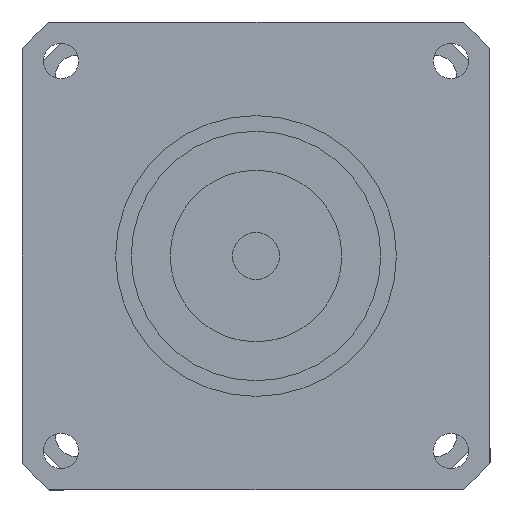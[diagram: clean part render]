
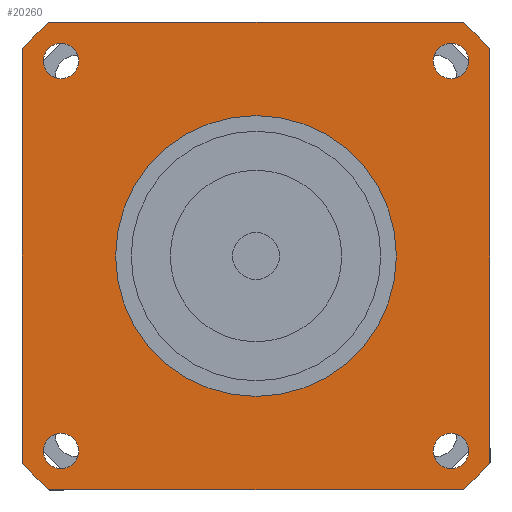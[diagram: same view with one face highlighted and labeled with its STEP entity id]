
A CAD part, left-side view. The second image highlights one B-rep face of the part: STEP entity #20260.
In plain terms, the highlighted planar face has unit normal (-1, 0, 0) as drawn and (0, 0, -1) by its records, which use the part's own axes.
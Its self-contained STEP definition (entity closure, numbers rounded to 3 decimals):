
#11110=CARTESIAN_POINT('',(-30.,-26.458,-58.));
#11120=VERTEX_POINT('',#11110);
#11280=CARTESIAN_POINT('',(-26.458,-30.,-58.));
#11290=VERTEX_POINT('',#11280);
#11320=CARTESIAN_POINT('',(0.,0.,
-58.));
#11330=DIRECTION('',(0.,0.,1.));
#11340=DIRECTION('',(0.,-1.,0.));
#11350=AXIS2_PLACEMENT_3D('',#11320,#11330,#11340);
#11360=CIRCLE('',#11350,40.);
#11370=EDGE_CURVE('',#11120,#11290,#11360,.T.);
#12870=CARTESIAN_POINT('',(-30.,26.458,-58.));
#12880=VERTEX_POINT('',#12870);
#12980=CARTESIAN_POINT('',(-30.,30.,-58.));
#12990=DIRECTION('',(0.,-1.,0.));
#13000=VECTOR('',#12990,1000.);
#13010=LINE('',#12980,#13000);
#13020=EDGE_CURVE('',#12880,#11120,#13010,.T.);
#17850=CARTESIAN_POINT('',(-26.458,30.,-58.));
#17860=VERTEX_POINT('',#17850);
#17910=CARTESIAN_POINT('',(0.,0.,
-58.));
#17920=DIRECTION('',(0.,0.,1.));
#17930=DIRECTION('',(0.,-1.,0.));
#17940=AXIS2_PLACEMENT_3D('',#17910,#17920,#17930);
#17950=CIRCLE('',#17940,40.);
#17960=EDGE_CURVE('',#17860,#12880,#17950,.T.);
#18100=CARTESIAN_POINT('',(26.458,30.,-58.));
#18110=VERTEX_POINT('',#18100);
#18160=CARTESIAN_POINT('',(30.,30.,-58.));
#18170=DIRECTION('',(-1.,0.,0.));
#18180=VECTOR('',#18170,1000.);
#18190=LINE('',#18160,#18180);
#18200=EDGE_CURVE('',#18110,#17860,#18190,.T.);
#18310=CARTESIAN_POINT('',(0.,0.,
-58.));
#18320=DIRECTION('',(0.,0.,1.));
#18330=DIRECTION('',(0.,-1.,0.));
#18340=AXIS2_PLACEMENT_3D('',#18310,#18320,#18330);
#18350=CIRCLE('',#18340,40.);
#18360=CARTESIAN_POINT('',(30.,26.458,-58.));
#18370=VERTEX_POINT('',#18360);
#18380=EDGE_CURVE('',#18370,#18110,#18350,.T.);
#18590=CARTESIAN_POINT('',(30.,-26.458,-58.));
#18600=VERTEX_POINT('',#18590);
#18650=CARTESIAN_POINT('',(30.,-30.,-58.));
#18660=DIRECTION('',(0.,1.,0.));
#18670=VECTOR('',#18660,1000.);
#18680=LINE('',#18650,#18670);
#18690=EDGE_CURVE('',#18600,#18370,#18680,.T.);
#18830=CARTESIAN_POINT('',(26.458,-30.,-58.));
#18840=VERTEX_POINT('',#18830);
#18890=CARTESIAN_POINT('',(0.,0.,
-58.));
#18900=DIRECTION('',(0.,0.,1.));
#18910=DIRECTION('',(0.,-1.,0.));
#18920=AXIS2_PLACEMENT_3D('',#18890,#18900,#18910);
#18930=CIRCLE('',#18920,40.);
#18940=EDGE_CURVE('',#18840,#18600,#18930,.T.);
#19070=CARTESIAN_POINT('',(-30.,-30.,-58.));
#19080=DIRECTION('',(1.,0.,0.));
#19090=VECTOR('',#19080,1000.);
#19100=LINE('',#19070,#19090);
#19110=EDGE_CURVE('',#11290,#18840,#19100,.T.);
#19160=CARTESIAN_POINT('',(-30.,30.,-58.));
#19170=DIRECTION('',(0.,0.,1.));
#19180=DIRECTION('',(-1.,0.,0.));
#19190=AXIS2_PLACEMENT_3D('',#19160,#19170,#19180);
#19200=PLANE('',#19190);
#19210=CARTESIAN_POINT('',(25.,-25.,-58.));
#19220=DIRECTION('',(0.,0.,-1.));
#19230=DIRECTION('',(1.,0.,0.));
#19240=AXIS2_PLACEMENT_3D('',#19210,#19220,#19230);
#19250=CIRCLE('',#19240,2.25);
#19260=CARTESIAN_POINT('',(27.25,-25.,-58.));
#19270=VERTEX_POINT('',#19260);
#19280=CARTESIAN_POINT('',(25.,-27.25,-58.));
#19290=VERTEX_POINT('',#19280);
#19300=EDGE_CURVE('',#19270,#19290,#19250,.T.);
#19310=ORIENTED_EDGE('',*,*,#19300,.F.);
#19320=CARTESIAN_POINT('',(25.,-22.75,-58.));
#19330=VERTEX_POINT('',#19320);
#19340=EDGE_CURVE('',#19290,#19330,#19250,.T.);
#19350=ORIENTED_EDGE('',*,*,#19340,.F.);
#19360=EDGE_CURVE('',#19330,#19270,#19250,.T.);
#19370=ORIENTED_EDGE('',*,*,#19360,.F.);
#19380=EDGE_LOOP('',(#19370,#19350,#19310));
#19390=FACE_BOUND('',#19380,.T.);
#19400=CARTESIAN_POINT('',(25.,25.,-58.));
#19410=DIRECTION('',(0.,0.,-1.));
#19420=DIRECTION('',(0.,1.,0.));
#19430=AXIS2_PLACEMENT_3D('',#19400,#19410,#19420);
#19440=CIRCLE('',#19430,2.25);
#19450=CARTESIAN_POINT('',(25.,27.25,-58.));
#19460=VERTEX_POINT('',#19450);
#19470=CARTESIAN_POINT('',(27.25,25.,-58.));
#19480=VERTEX_POINT('',#19470);
#19490=EDGE_CURVE('',#19460,#19480,#19440,.T.);
#19500=ORIENTED_EDGE('',*,*,#19490,.F.);
#19510=CARTESIAN_POINT('',(22.75,25.,-58.));
#19520=VERTEX_POINT('',#19510);
#19530=EDGE_CURVE('',#19480,#19520,#19440,.T.);
#19540=ORIENTED_EDGE('',*,*,#19530,.F.);
#19550=EDGE_CURVE('',#19520,#19460,#19440,.T.);
#19560=ORIENTED_EDGE('',*,*,#19550,.F.);
#19570=EDGE_LOOP('',(#19560,#19540,#19500));
#19580=FACE_BOUND('',#19570,.T.);
#19590=CARTESIAN_POINT('',(-25.,25.,-58.));
#19600=DIRECTION('',(0.,0.,-1.));
#19610=DIRECTION('',(-1.,0.,0.));
#19620=AXIS2_PLACEMENT_3D('',#19590,#19600,#19610);
#19630=CIRCLE('',#19620,2.25);
#19640=CARTESIAN_POINT('',(-27.25,25.,-58.));
#19650=VERTEX_POINT('',#19640);
#19660=CARTESIAN_POINT('',(-25.,27.25,-58.));
#19670=VERTEX_POINT('',#19660);
#19680=EDGE_CURVE('',#19650,#19670,#19630,.T.);
#19690=ORIENTED_EDGE('',*,*,#19680,.F.);
#19700=CARTESIAN_POINT('',(-25.,22.75,-58.));
#19710=VERTEX_POINT('',#19700);
#19720=EDGE_CURVE('',#19670,#19710,#19630,.T.);
#19730=ORIENTED_EDGE('',*,*,#19720,.F.);
#19740=EDGE_CURVE('',#19710,#19650,#19630,.T.);
#19750=ORIENTED_EDGE('',*,*,#19740,.F.);
#19760=EDGE_LOOP('',(#19750,#19730,#19690));
#19770=FACE_BOUND('',#19760,.T.);
#19780=CARTESIAN_POINT('',(-25.,-25.,-58.));
#19790=DIRECTION('',(0.,0.,-1.));
#19800=DIRECTION('',(0.,-1.,0.));
#19810=AXIS2_PLACEMENT_3D('',#19780,#19790,#19800);
#19820=CIRCLE('',#19810,2.25);
#19830=CARTESIAN_POINT('',(-25.,-27.25,-58.));
#19840=VERTEX_POINT('',#19830);
#19850=CARTESIAN_POINT('',(-27.25,-25.,-58.));
#19860=VERTEX_POINT('',#19850);
#19870=EDGE_CURVE('',#19840,#19860,#19820,.T.);
#19880=ORIENTED_EDGE('',*,*,#19870,.F.);
#19890=CARTESIAN_POINT('',(-22.75,-25.,-58.));
#19900=VERTEX_POINT('',#19890);
#19910=EDGE_CURVE('',#19860,#19900,#19820,.T.);
#19920=ORIENTED_EDGE('',*,*,#19910,.F.);
#19930=EDGE_CURVE('',#19900,#19840,#19820,.T.);
#19940=ORIENTED_EDGE('',*,*,#19930,.F.);
#19950=EDGE_LOOP('',(#19940,#19920,#19880));
#19960=FACE_BOUND('',#19950,.T.);
#19970=ORIENTED_EDGE('',*,*,#11370,.F.);
#19980=ORIENTED_EDGE('',*,*,#19110,.F.);
#19990=ORIENTED_EDGE('',*,*,#18940,.F.);
#20000=ORIENTED_EDGE('',*,*,#18690,.F.);
#20010=ORIENTED_EDGE('',*,*,#18380,.F.);
#20020=ORIENTED_EDGE('',*,*,#18200,.F.);
#20030=ORIENTED_EDGE('',*,*,#17960,.F.);
#20040=ORIENTED_EDGE('',*,*,#13020,.F.);
#20050=EDGE_LOOP('',(#20040,#20030,#20020,#20010,#20000,#19990,#19980,
#19970));
#20060=FACE_OUTER_BOUND('',#20050,.T.);
#20070=CARTESIAN_POINT('',(0.,0.,
-58.));
#20080=DIRECTION('',(0.,0.,1.));
#20090=DIRECTION('',(0.,-1.,0.));
#20100=AXIS2_PLACEMENT_3D('',#20070,#20080,#20090);
#20110=CIRCLE('',#20100,18.);
#20120=CARTESIAN_POINT('',(18.,0.,-58.));
#20130=VERTEX_POINT('',#20120);
#20140=CARTESIAN_POINT('',(-18.,0.,-58.));
#20150=VERTEX_POINT('',#20140);
#20160=EDGE_CURVE('',#20130,#20150,#20110,.T.);
#20170=ORIENTED_EDGE('',*,*,#20160,.T.);
#20180=CARTESIAN_POINT('',(0.,-18.,-58.));
#20190=VERTEX_POINT('',#20180);
#20200=EDGE_CURVE('',#20190,#20130,#20110,.T.);
#20210=ORIENTED_EDGE('',*,*,#20200,.T.);
#20220=EDGE_CURVE('',#20150,#20190,#20110,.T.);
#20230=ORIENTED_EDGE('',*,*,#20220,.T.);
#20240=EDGE_LOOP('',(#20230,#20210,#20170));
#20250=FACE_BOUND('',#20240,.T.);
#20260=ADVANCED_FACE('',(#19390,#19580,#19770,#19960,#20060,#20250),
#19200,.F.);
